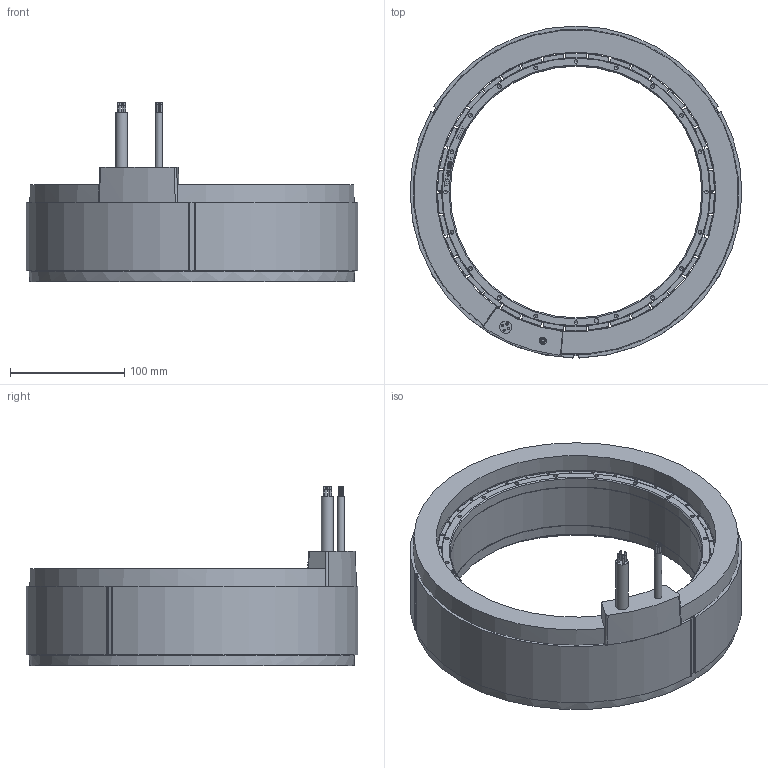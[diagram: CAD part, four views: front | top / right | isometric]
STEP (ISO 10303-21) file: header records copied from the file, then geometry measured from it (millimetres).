
FILE_DESCRIPTION(/* description */ ('QTL-290-85 KIT'),/* implementation_level */ '2;1');
FILE_NAME(/* name */ 'Torque_QTL_290_85_N_Kit_CAD_190320',/* time_stamp */ '2019-03-25T08:59:18+01:00',/* author */ ('MTE'),/* organization */ ('TECNOTION'),/* preprocessor_version */ 'ST-DEVELOPER v16.7',/* originating_system */ 'DEX',/* authorisation */ $);
FILE_SCHEMA (('AUTOMOTIVE_DESIGN {1 0 10303 214 3 1 1}'));
Length unit declared in the file: millimetre
Products named in the file (2): Torque_QTL_290_85_N_Kit_CAD_190320
Assembly tree (1 placements, depth 2):
  Torque_QTL_290_85_N_Kit_CAD_190320
    Torque_QTL_290_85_N_Kit_CAD_190320
Bounding box: 289.98 x 289.97 x 157 mm (x, y, z)
Volume: 3019159.8 mm3; surface area: 525754.1 mm2
Topology: 43 solids, 43 shells, 1380 faces, 3134 edges, 1581 vertices
Faces by surface type: cylinder 544, plane 471, sphere 304, cone 45, bspline 16
Full cylindrical faces by diameter (mm): 1.35 x6, 1.5 x6, 1.598 x4, 2 x4, 3.242 x40, 4 x2, 6.4 x2, 10 x1, 10.6 x1, 220 x2, 221 x1, 233.9 x1, 244.4 x1, 245.1 x1, 284.5 x1
Entity records: 37387 total; most frequent: CARTESIAN_POINT 6859, DIRECTION 6078, ORIENTED_EDGE 5264, EDGE_CURVE 2632, AXIS2_PLACEMENT_3D 2466, FACE_BOUND 1587, EDGE_LOOP 1547, VERTEX_POINT 1539
